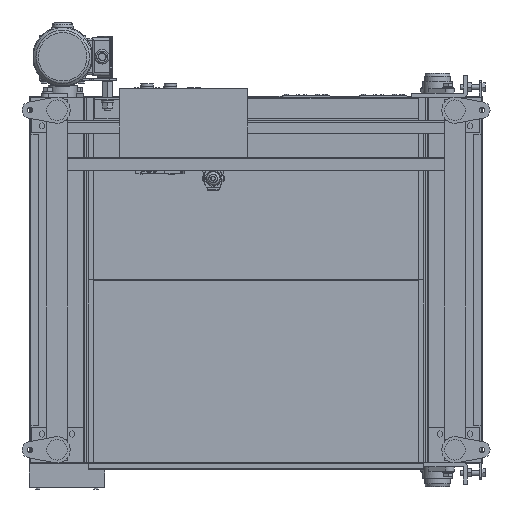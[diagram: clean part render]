
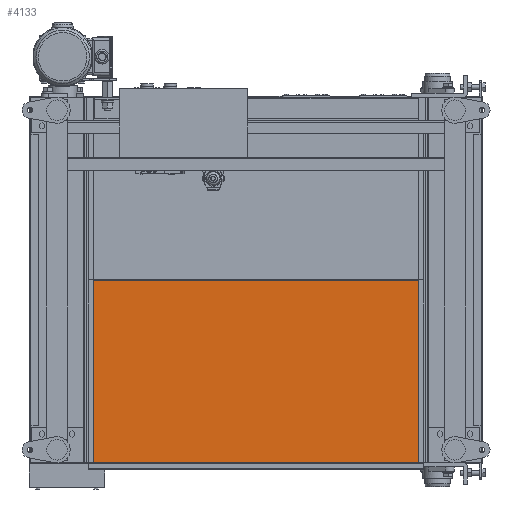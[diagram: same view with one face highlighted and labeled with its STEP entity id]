
A CAD part, front view. The second image highlights one B-rep face of the part: STEP entity #4133.
In plain terms, the highlighted planar face has unit normal (0, -1, 0).
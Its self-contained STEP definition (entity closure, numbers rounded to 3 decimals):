
#4133=ADVANCED_FACE('',(#13569),#13568,.F.);
#13568=PLANE('',#38874);
#13569=FACE_OUTER_BOUND('',#38875,.T.);
#38871=CARTESIAN_POINT('',(932.5,-165.,10.));
#38872=DIRECTION('',(0.,1.,0.));
#38873=DIRECTION('',(0.,0.,-1.));
#38874=AXIS2_PLACEMENT_3D('',#38871,#38872,#38873);
#38875=EDGE_LOOP('',(#56081,#56082,#56083,#56084));
#56081=ORIENTED_EDGE('',*,*,#69258,.F.);
#56082=ORIENTED_EDGE('',*,*,#69264,.F.);
#56083=ORIENTED_EDGE('',*,*,#69265,.F.);
#56084=ORIENTED_EDGE('',*,*,#69266,.F.);
#69258=EDGE_CURVE('',#90586,#90587,#90588,.T.);
#69264=EDGE_CURVE('',#90625,#90586,#90626,.T.);
#69265=EDGE_CURVE('',#90632,#90625,#90633,.T.);
#69266=EDGE_CURVE('',#90587,#90632,#90639,.T.);
#90586=VERTEX_POINT('',#135416);
#90587=VERTEX_POINT('',#135417);
#90588=LINE('',#135418,#135419);
#90625=VERTEX_POINT('',#135437);
#90626=LINE('',#135438,#135439);
#90632=VERTEX_POINT('',#135441);
#90633=LINE('',#135442,#135443);
#90639=LINE('',#135445,#135446);
#135416=CARTESIAN_POINT('',(922.5,-165.,0.));
#135417=CARTESIAN_POINT('',(922.5,-165.,-428.2));
#135418=CARTESIAN_POINT('',(922.5,-165.,0.));
#135419=VECTOR('',#135420,428.2);
#135420=DIRECTION('',(0.,0.,-1.));
#135437=CARTESIAN_POINT('',(137.5,-165.,0.));
#135438=CARTESIAN_POINT('',(137.5,-165.,0.));
#135439=VECTOR('',#135440,785.);
#135440=DIRECTION('',(1.,0.,0.));
#135441=CARTESIAN_POINT('',(137.5,-165.,-428.2));
#135442=CARTESIAN_POINT('',(137.5,-165.,-428.2));
#135443=VECTOR('',#135444,428.2);
#135444=DIRECTION('',(0.,0.,1.));
#135445=CARTESIAN_POINT('',(922.5,-165.,-428.2));
#135446=VECTOR('',#135447,785.);
#135447=DIRECTION('',(-1.,0.,0.));
